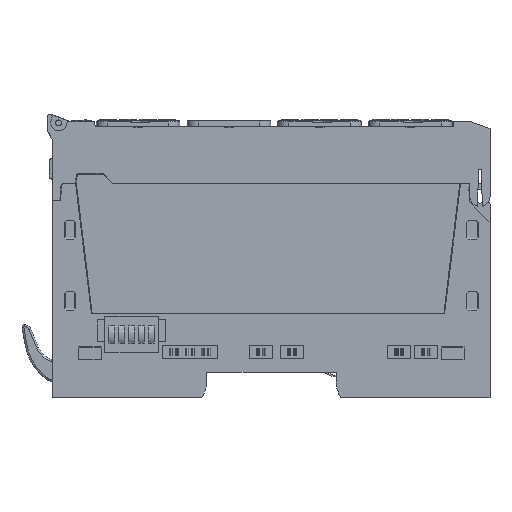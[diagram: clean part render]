
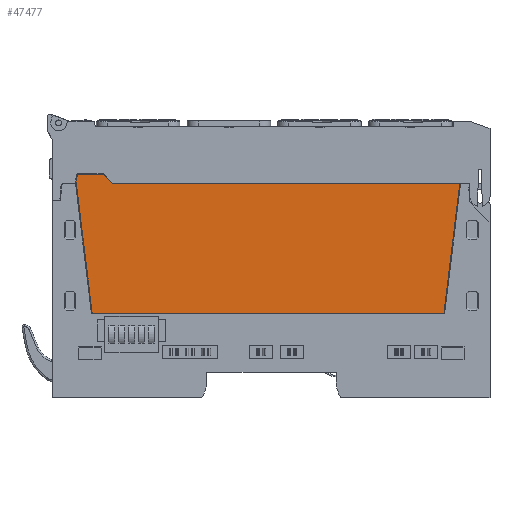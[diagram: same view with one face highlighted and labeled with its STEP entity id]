
A CAD part, top view. The second image highlights one B-rep face of the part: STEP entity #47477.
In plain terms, the highlighted planar face has unit normal (0, 0, 1).
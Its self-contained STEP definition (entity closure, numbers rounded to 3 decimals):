
#47417=AXIS2_PLACEMENT_3D('Plane Axis2P3D',#47414,#47415,#47416) ;
#47449=AXIS2_PLACEMENT_3D('Circle Axis2P3D',#47447,#47448,$) ;
#43617=CARTESIAN_POINT('Vertex',(47.15,16.1,11.5)) ;
#43620=CARTESIAN_POINT('Line Origine',(-0.9,16.1,11.5)) ;
#43624=CARTESIAN_POINT('Vertex',(-48.95,16.1,11.5)) ;
#47392=CARTESIAN_POINT('Vertex',(51.497,51.5,11.5)) ;
#47395=CARTESIAN_POINT('Line Origine',(49.323,33.8,11.5)) ;
#47414=CARTESIAN_POINT('Axis2P3D Location',(0.,0.,11.5)) ;
#47419=CARTESIAN_POINT('Line Origine',(-51.123,33.8,11.5)) ;
#47423=CARTESIAN_POINT('Vertex',(-53.297,51.5,11.5)) ;
#47426=CARTESIAN_POINT('Line Origine',(4.05,51.5,11.5)) ;
#47430=CARTESIAN_POINT('Vertex',(-43.396,51.5,11.5)) ;
#47433=CARTESIAN_POINT('Line Origine',(-44.684,52.8,11.5)) ;
#47437=CARTESIAN_POINT('Vertex',(-45.971,54.1,11.5)) ;
#47440=CARTESIAN_POINT('Line Origine',(-49.265,54.1,11.5)) ;
#47444=CARTESIAN_POINT('Vertex',(-52.558,54.1,11.5)) ;
#47447=CARTESIAN_POINT('Axis2P3D Location',(-52.558,53.6,11.5)) ;
#47451=CARTESIAN_POINT('Vertex',(-53.051,53.686,11.5)) ;
#47454=CARTESIAN_POINT('Line Origine',(-53.174,52.982,11.5)) ;
#47458=CARTESIAN_POINT('Vertex',(-53.297,52.277,11.5)) ;
#47461=CARTESIAN_POINT('Line Origine',(-53.297,51.889,11.5)) ;
#43621=DIRECTION('Vector Direction',(-1.,0.,0.)) ;
#47396=DIRECTION('Vector Direction',(0.122,0.993,0.)) ;
#47415=DIRECTION('Axis2P3D Direction',(0.,0.,1.)) ;
#47416=DIRECTION('Axis2P3D XDirection',(1.,0.,0.)) ;
#47420=DIRECTION('Vector Direction',(0.122,-0.993,0.)) ;
#47427=DIRECTION('Vector Direction',(1.,0.,0.)) ;
#47434=DIRECTION('Vector Direction',(-0.704,0.71,0.)) ;
#47441=DIRECTION('Vector Direction',(-1.,0.,0.)) ;
#47448=DIRECTION('Axis2P3D Direction',(0.,0.,1.)) ;
#47455=DIRECTION('Vector Direction',(-0.172,-0.985,0.)) ;
#47462=DIRECTION('Vector Direction',(0.,-1.,0.)) ;
#43622=VECTOR('Line Direction',#43621,1.) ;
#47397=VECTOR('Line Direction',#47396,1.) ;
#47421=VECTOR('Line Direction',#47420,1.) ;
#47428=VECTOR('Line Direction',#47427,1.) ;
#47435=VECTOR('Line Direction',#47434,1.) ;
#47442=VECTOR('Line Direction',#47441,1.) ;
#47456=VECTOR('Line Direction',#47455,1.) ;
#47463=VECTOR('Line Direction',#47462,1.) ;
#47467=ORIENTED_EDGE('',*,*,#47425,.T.) ;
#47468=ORIENTED_EDGE('',*,*,#43626,.T.) ;
#47469=ORIENTED_EDGE('',*,*,#47399,.T.) ;
#47470=ORIENTED_EDGE('',*,*,#47432,.T.) ;
#47471=ORIENTED_EDGE('',*,*,#47439,.T.) ;
#47472=ORIENTED_EDGE('',*,*,#47446,.T.) ;
#47473=ORIENTED_EDGE('',*,*,#47453,.T.) ;
#47474=ORIENTED_EDGE('',*,*,#47460,.T.) ;
#47475=ORIENTED_EDGE('',*,*,#47465,.T.) ;
#47477=ADVANCED_FACE('SP_UR20_EM.1\\SP_UR20_HO_EM.1\\ELGH_BASIC',(#47476),#47418,.T.) ;
#47450=CIRCLE('generated circle',#47449,0.5) ;
#43626=EDGE_CURVE('',#43625,#43618,#43623,.F.) ;
#47399=EDGE_CURVE('',#43618,#47393,#47398,.T.) ;
#47425=EDGE_CURVE('',#47424,#43625,#47422,.T.) ;
#47432=EDGE_CURVE('',#47393,#47431,#47429,.F.) ;
#47439=EDGE_CURVE('',#47431,#47438,#47436,.T.) ;
#47446=EDGE_CURVE('',#47438,#47445,#47443,.T.) ;
#47453=EDGE_CURVE('',#47445,#47452,#47450,.T.) ;
#47460=EDGE_CURVE('',#47452,#47459,#47457,.T.) ;
#47465=EDGE_CURVE('',#47459,#47424,#47464,.T.) ;
#47466=EDGE_LOOP('',(#47467,#47468,#47469,#47470,#47471,#47472,#47473,#47474,#47475)) ;
#47476=FACE_OUTER_BOUND('',#47466,.T.) ;
#43623=LINE('Line',#43620,#43622) ;
#47398=LINE('Line',#47395,#47397) ;
#47422=LINE('Line',#47419,#47421) ;
#47429=LINE('Line',#47426,#47428) ;
#47436=LINE('Line',#47433,#47435) ;
#47443=LINE('Line',#47440,#47442) ;
#47457=LINE('Line',#47454,#47456) ;
#47464=LINE('Line',#47461,#47463) ;
#47418=PLANE('',#47417) ;
#43618=VERTEX_POINT('',#43617) ;
#43625=VERTEX_POINT('',#43624) ;
#47393=VERTEX_POINT('',#47392) ;
#47424=VERTEX_POINT('',#47423) ;
#47431=VERTEX_POINT('',#47430) ;
#47438=VERTEX_POINT('',#47437) ;
#47445=VERTEX_POINT('',#47444) ;
#47452=VERTEX_POINT('',#47451) ;
#47459=VERTEX_POINT('',#47458) ;
